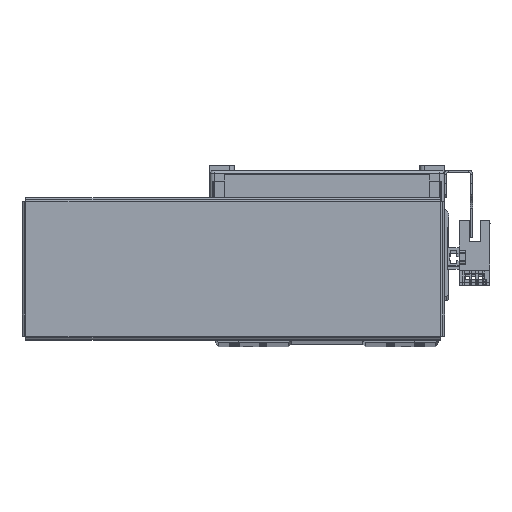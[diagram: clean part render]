
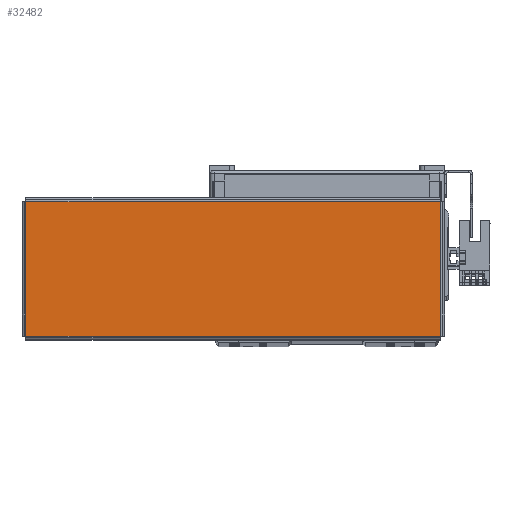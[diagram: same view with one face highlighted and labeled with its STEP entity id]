
A CAD part, top view. The second image highlights one B-rep face of the part: STEP entity #32482.
In plain terms, the highlighted planar face has unit normal (0, 0, 1) as drawn and (0, -1, 0) by its records, which use the part's own axes.
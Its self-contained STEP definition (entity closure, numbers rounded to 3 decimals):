
#3451 = EDGE_LOOP ( 'NONE', ( #27851, #27872, #27792, #27866 ) ) ;
#6087 = DIRECTION ( 'NONE',  ( 0., 0., -1. ) ) ;
#6139 = CARTESIAN_POINT ( 'NONE',  ( -91.863, -1., 29.793 ) ) ;
#6184 = DIRECTION ( 'NONE',  ( 1., 0., 0. ) ) ;
#6190 = DIRECTION ( 'NONE',  ( 0., 0., 1. ) ) ;
#6198 = CARTESIAN_POINT ( 'NONE',  ( -91.893, -1., -29.763 ) ) ;
#6202 = CARTESIAN_POINT ( 'NONE',  ( 91.863, -1., -29.793 ) ) ;
#6553 = DIRECTION ( 'NONE',  ( -1., 0., 0. ) ) ;
#6567 = CARTESIAN_POINT ( 'NONE',  ( 91.893, -1., 29.763 ) ) ;
#9112 = AXIS2_PLACEMENT_3D ( 'NONE', #46433, #46397, #46406 ) ;
#14286 = LINE ( 'NONE', #6202, #14367 ) ;
#14300 = LINE ( 'NONE', #6198, #14373 ) ;
#14350 = VECTOR ( 'NONE', #6087, 1000. ) ;
#14364 = LINE ( 'NONE', #6139, #14350 ) ;
#14367 = VECTOR ( 'NONE', #6190, 1000. ) ;
#14373 = VECTOR ( 'NONE', #6184, 1000. ) ;
#14470 = LINE ( 'NONE', #6567, #14485 ) ;
#14485 = VECTOR ( 'NONE', #6553, 1000. ) ;
#27792 = ORIENTED_EDGE ( 'NONE', *, *, #44692, .T. ) ;
#27851 = ORIENTED_EDGE ( 'NONE', *, *, #44642, .T. ) ;
#27866 = ORIENTED_EDGE ( 'NONE', *, *, #44628, .T. ) ;
#27872 = ORIENTED_EDGE ( 'NONE', *, *, #44637, .T. ) ;
#32482 = ADVANCED_FACE ( 'NONE', ( #41755 ), #46375, .F. ) ;
#41755 = FACE_OUTER_BOUND ( 'NONE', #3451, .T. ) ;
#44628 = EDGE_CURVE ( 'NONE', #55206, #55231, #14364, .T. ) ;
#44637 = EDGE_CURVE ( 'NONE', #55208, #55217, #14286, .T. ) ;
#44642 = EDGE_CURVE ( 'NONE', #55231, #55208, #14300, .T. ) ;
#44692 = EDGE_CURVE ( 'NONE', #55217, #55206, #14470, .T. ) ;
#45679 = CARTESIAN_POINT ( 'NONE',  ( -91.863, -1., 29.763 ) ) ;
#45751 = CARTESIAN_POINT ( 'NONE',  ( 91.863, -1., -29.763 ) ) ;
#45773 = CARTESIAN_POINT ( 'NONE',  ( 91.863, -1., 29.763 ) ) ;
#45805 = CARTESIAN_POINT ( 'NONE',  ( -91.863, -1., -29.763 ) ) ;
#46375 = PLANE ( 'NONE',  #9112 ) ;
#46397 = DIRECTION ( 'NONE',  ( 0., 1., 0. ) ) ;
#46406 = DIRECTION ( 'NONE',  ( 0., 0., 1. ) ) ;
#46433 = CARTESIAN_POINT ( 'NONE',  ( 0., -1., 0. ) ) ;
#55206 = VERTEX_POINT ( 'NONE', #45679 ) ;
#55208 = VERTEX_POINT ( 'NONE', #45751 ) ;
#55217 = VERTEX_POINT ( 'NONE', #45773 ) ;
#55231 = VERTEX_POINT ( 'NONE', #45805 ) ;
